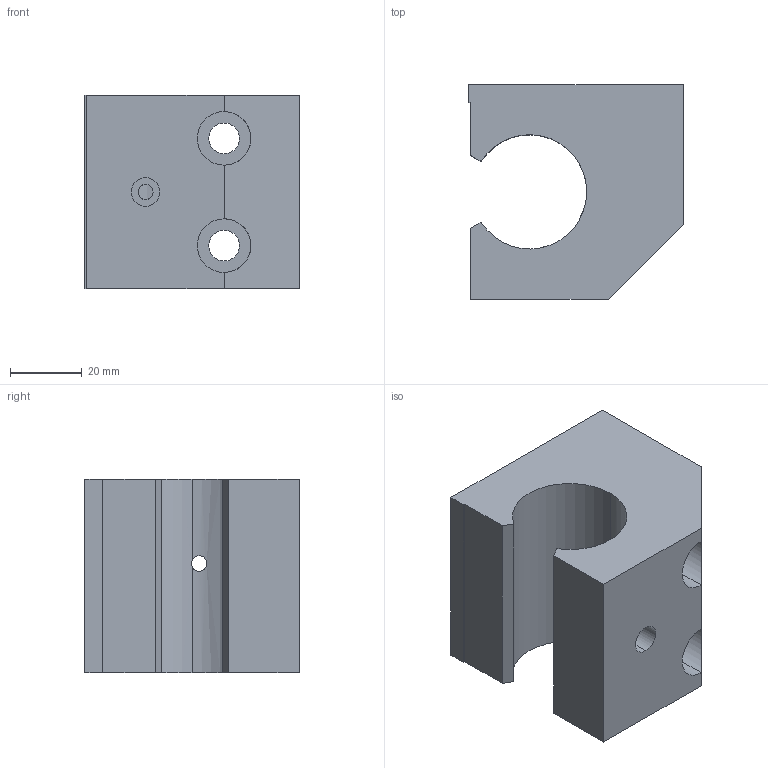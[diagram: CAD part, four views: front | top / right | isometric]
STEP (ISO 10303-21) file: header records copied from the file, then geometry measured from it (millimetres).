
FILE_DESCRIPTION (( 'STEP AP214' ), '1' );
FILE_NAME ('KGS71-20.step', '2020-03-04T13:23:36', ( '' ), ( '' ), 'SwSTEP 2.0', 'SolidWorks 2019', '' );
FILE_SCHEMA (( 'AUTOMOTIVE_DESIGN' ));
Length unit declared in the file: millimetre
Products named in the file (1): KGS71-20
Bounding box: 60 x 60 x 54 mm (x, y, z)
Volume: 124269.5 mm3; surface area: 25187.1 mm2
Topology: 1 solids, 1 shells, 35 faces, 93 edges, 60 vertices
Faces by surface type: cylinder 18, plane 15, cone 2
Entity records: 1333 total; most frequent: CARTESIAN_POINT 311, DIRECTION 189, ORIENTED_EDGE 186, EDGE_CURVE 93, AXIS2_PLACEMENT_3D 68, VERTEX_POINT 60, VECTOR 53, LINE 53
